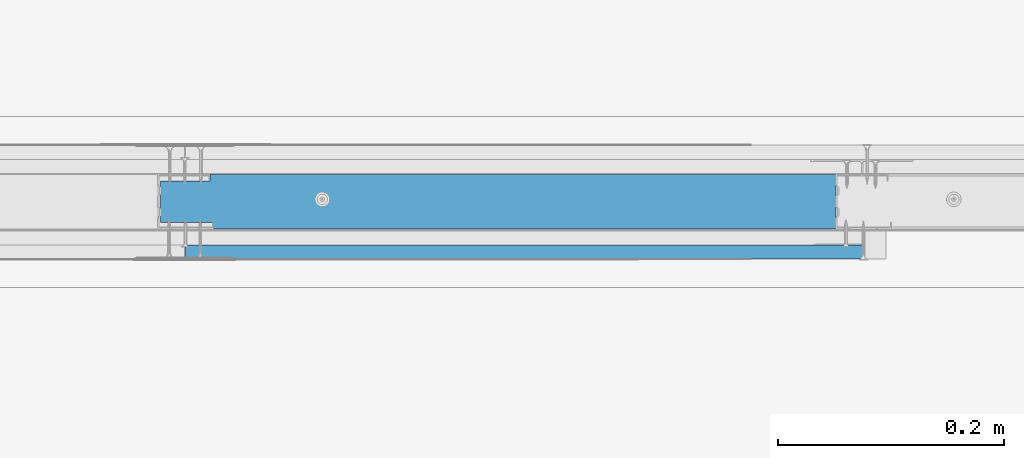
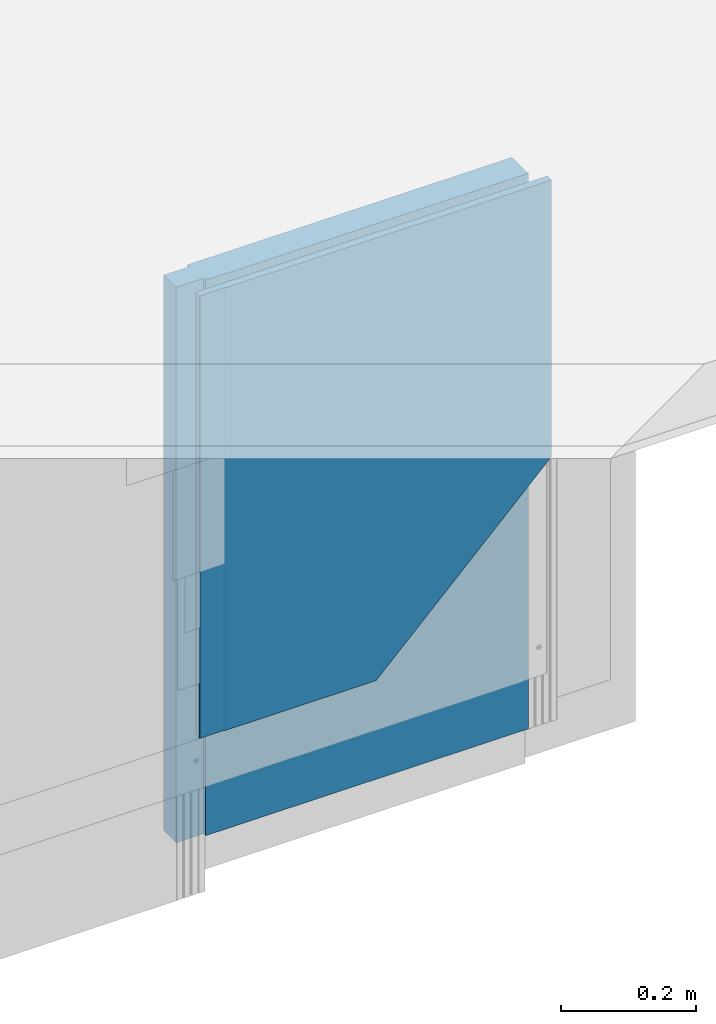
# One storey, part 2 of 37: 2 walls.
"""IFC2X3 building model written with IfcOpenShell, lengths in millimetres."""

from ifc_helpers import new_model, entity, si_unit, converted_unit, direction, frame, origin, origin_with_axes, place, context, project, spatial, faceted_brep, element, save


model = new_model("IFC2X3")

# Units and contexts
model_context = context("Model", 3, precision=1e-05, world=origin(), true_north=direction((0.0, 1.0, 0.0)))
ifc_project = project(units=[si_unit("LENGTHUNIT", "METRE", prefix="MILLI"), si_unit("AREAUNIT", "SQUARE_METRE"), si_unit("VOLUMEUNIT", "CUBIC_METRE"), converted_unit("PLANEANGLEUNIT", "DEGREE", entity("IfcPlaneAngleMeasure", 0.01745), si_unit("PLANEANGLEUNIT", "RADIAN"), dimensions=[0, 0, 0, 0, 0, 0, 0]), si_unit("SOLIDANGLEUNIT", "STERADIAN"), si_unit("MASSUNIT", "GRAM"), si_unit("TIMEUNIT", "SECOND"), si_unit("THERMODYNAMICTEMPERATUREUNIT", "DEGREE_CELSIUS"), si_unit("LUMINOUSINTENSITYUNIT", "LUMEN")], contexts=[model_context])

# Site, building, storey
site_placement = place(None, origin_with_axes())
site = spatial("IfcSite", under=ifc_project, at=site_placement, Name="Default Site", CompositionType="ELEMENT")
building_placement = place(site_placement, origin_with_axes())
building = spatial("IfcBuilding", under=site, at=building_placement, Name="Default Building", CompositionType="ELEMENT")
storey_placement = place(building_placement, origin_with_axes())
storey = spatial("IfcBuildingStorey", under=building, at=storey_placement, Name="Default Building Storey", CompositionType="ELEMENT", Elevation=0.0)

# Walls
wall_1_placement = place(storey_placement, frame((2786.490947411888, 5452.42414647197, 1385.007875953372), z_axis=(0.0, 0.0, -1.0), x_axis=(1.0, 0.0, 0.0)))
element("IfcWall", 1, at=wall_1_placement, inside=storey, Name="Wełna mineralna szklana lub skalna ISOVER", context=model_context, shape_type="Brep", body=[
    faceted_brep([(-161.2958819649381, 3473.633223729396, -3.060216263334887), (-161.2958819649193, 3473.633223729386, 1001.199388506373), (-114.6214102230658, 3473.633223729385, 1001.199388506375), (-114.6214102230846, 3473.633223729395, -3.060216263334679), (-114.6214102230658, 3479.633223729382, 1001.199388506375), (-114.6214102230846, 3479.633223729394, -3.060216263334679), (-161.2958819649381, 3436.833223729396, -3.060216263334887), (-161.2958819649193, 3436.833223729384, 1001.199388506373), (-117.6214102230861, 3436.833223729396, -3.060216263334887), (-117.6214102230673, 3436.833223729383, 1001.199388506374), (-117.6214102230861, 3431.283223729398, -3.060216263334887), (437.5658080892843, 3431.283223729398, -3.060216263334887), (437.5658080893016, 3431.283223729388, 1001.199388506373), (-117.6214102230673, 3431.283223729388, 1001.199388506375), (437.5658080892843, 3479.633223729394, -3.060216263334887), (437.5658080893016, 3479.633223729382, 1001.199388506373)], [[[0, 1, 2, 3]], [[3, 2, 4, 5]], [[1, 0, 6, 7]], [[7, 6, 8, 9]], [[10, 11, 12, 13]], [[9, 8, 10, 13]], [[3, 5, 14, 11, 10, 8, 6, 0]], [[4, 15, 14, 5]], [[15, 4, 2, 1, 7, 9, 13, 12]], [[14, 15, 12, 11]]]),
])
wall_2_placement = place(storey_placement, frame((2647.242430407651, 1958.68007752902, 333.808487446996), z_axis=(0.0, 0.0, -1.0), x_axis=(1.0, 0.0, 0.0)))
element("IfcWall", 2, at=wall_2_placement, inside=storey, Name="Płyta gipsowo-kartonowa RIGIPS PRO (4PRO™)", context=model_context, shape_type="Brep", body=[
    faceted_brep([(601.187218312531, 12.49999999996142, -550.0000000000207), (301.1872183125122, 12.49999999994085, -250.0000000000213), (301.1872183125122, -3.97051280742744e-11, -250.0000000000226), (601.1872183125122, -5.919673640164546e-11, -550.000000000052), (601.1872183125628, 12.49999999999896, -1050.001581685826), (44.99999999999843, 12.50000000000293, -1050.001581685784), (44.99999999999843, 12.50000000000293, -249.9999999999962), (601.187218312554, -2.526689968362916e-12, -1050.001581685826), (285.9232783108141, -4.475850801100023e-11, -250.0000000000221), (40.99999999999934, 11.50000000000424, -249.9999999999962), (0.9999999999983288, 11.5000000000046, -249.9999999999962), (0.7411809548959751, 11.46592582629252, -249.9999999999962), (0.4999999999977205, 11.3660254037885, -249.9999999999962), (0.29289321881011, 11.20710678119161, -249.9999999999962), (0.1339745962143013, 11.00000000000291, -249.9999999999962), (0.03407417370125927, 10.7588190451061, -249.9999999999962), (-3.97051280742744e-12, 10.50000000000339, -249.9999999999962), (0.0, 0.0, -249.9999999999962), (40.99999999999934, 11.50000000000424, -1050.001581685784), (0.9999999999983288, 11.5000000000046, -1050.001581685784), (0.7411809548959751, 11.46592582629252, -1050.001581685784), (0.4999999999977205, 11.3660254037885, -1050.001581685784), (0.29289321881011, 11.20710678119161, -1050.001581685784), (0.1339745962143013, 11.00000000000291, -1050.001581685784), (0.03407417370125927, 10.7588190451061, -1050.001581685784), (-3.97051280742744e-12, 10.50000000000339, -1050.001581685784), (0.0, 0.0, -1050.001581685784)], [[[0, 1, 2, 3]], [[0, 4, 5, 6, 1]], [[3, 7, 4, 0]], [[8, 2, 1, 6, 9, 10, 11, 12, 13, 14, 15, 16, 17]], [[2, 8, 3]], [[9, 6, 5, 18]], [[10, 9, 18, 19]], [[11, 10, 19, 20]], [[12, 11, 20, 21]], [[13, 12, 21, 22]], [[14, 13, 22, 23]], [[15, 14, 23, 24]], [[16, 15, 24, 25]], [[17, 16, 25, 26]], [[26, 7, 3, 8, 17]], [[5, 4, 7, 26, 25, 24, 23, 22, 21, 20, 19, 18]]]),
])

save(model, "model.ifc")
